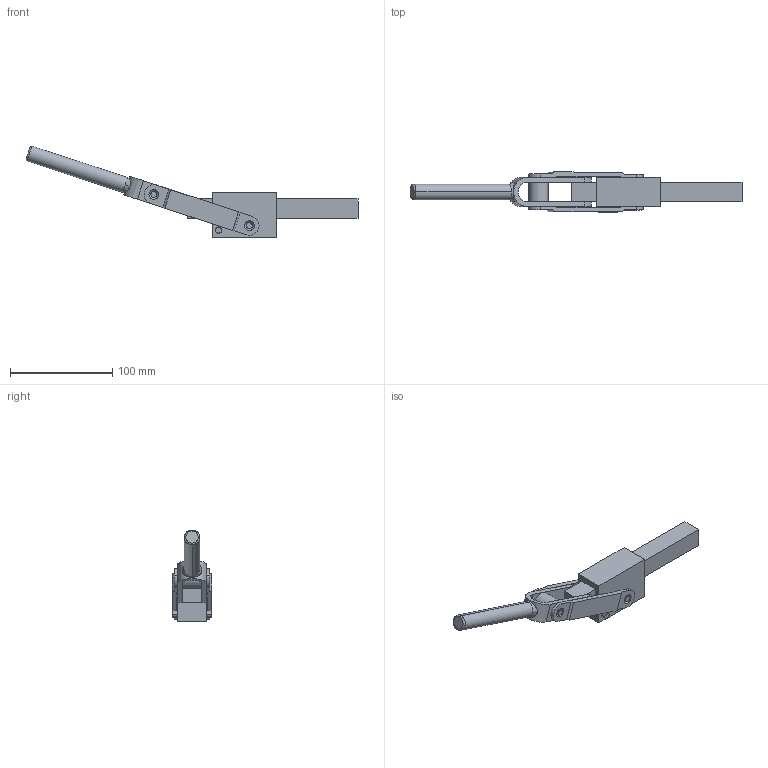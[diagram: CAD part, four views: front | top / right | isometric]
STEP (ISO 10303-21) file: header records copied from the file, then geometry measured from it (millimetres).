
FILE_DESCRIPTION( ( '' ), '1' );
FILE_NAME( 'C:\Documents and Settings\Richard Grenzke\My Documents\Wolverine Company Data\WOLVERINE CD 5_17_05\SOLIDS STEP\straight_line\c153.stp', ' ', ( '' ), ( '' ), 'ACIS Interop R16', 'Kubotek KeyCreator V5.5.1 (0454)', ' ' );
FILE_SCHEMA( ( 'CONFIG_CONTROL_DESIGN' ) );
Length unit declared in the file: inch
Products named in the file (128): 1; 2; 3; 4; 5; 6; 7; 8; 9; 10; 11; 12; 13; 14; 15; 16; 17; 18; 19; 20; 21; 22; 23; 24; 25; 26; 27; 28; 29; 30; 31; 32; 33; 34; 35; 36; 37; 38; 39; 40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
Bounding box: 325.06 x 39.12 x 89.84 mm (x, y, z)
Volume: 5429.7 mm3; surface area: 58710.4 mm2
Topology: 1 solids, 129 shells, 132 faces, 610 edges, 608 vertices
Faces by surface type: revolution 66, bspline 62, cylinder 2, plane 2
Entity records: 12597 total; most frequent: CARTESIAN_POINT 1896, DIRECTION 1176, CC_DESIGN_PERSON_AND_ORGANIZATION_ASSIGNMENT 640, ORIENTED_EDGE 616, EDGE_CURVE 610, VERTEX_POINT 608, PERSON_AND_ORGANIZATION_ROLE 512, AXIS2_PLACEMENT_3D 372
